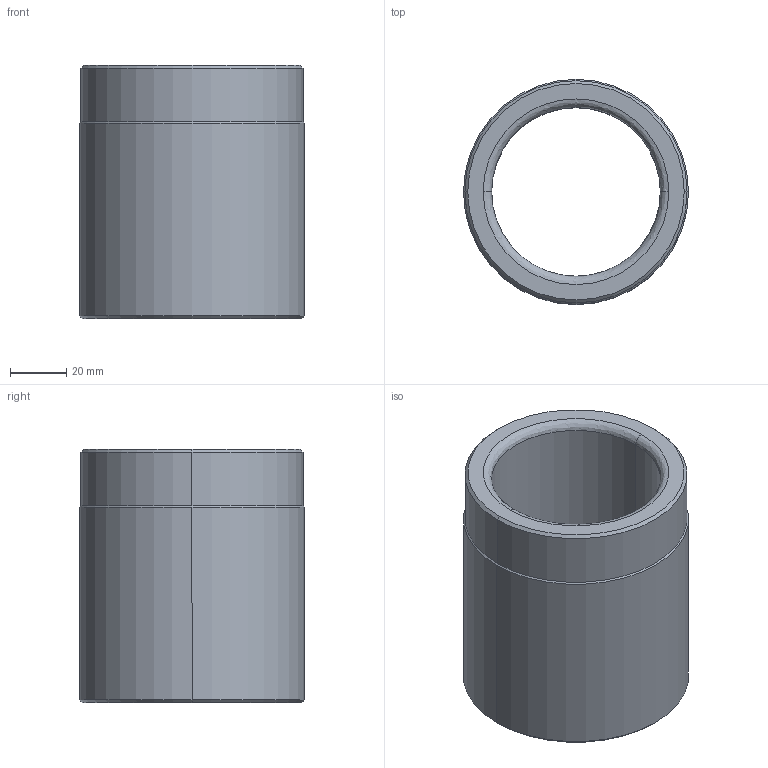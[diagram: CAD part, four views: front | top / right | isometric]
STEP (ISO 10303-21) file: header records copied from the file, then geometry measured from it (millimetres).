
FILE_DESCRIPTION((''),'2;1');
FILE_NAME('','2010-08-30T17:15:52+09:00',('misumi'),(''),'M/STEP i/f 1R2-14','CADmeister v5.1','');
FILE_SCHEMA(('AUTOMOTIVE_DESIGN'));
Length unit declared in the file: millimetre
Products named in the file (1): GBW60
Bounding box: 80 x 80 x 90 mm (x, y, z)
Volume: 192114.1 mm3; surface area: 42933.8 mm2
Topology: 1 solids, 1 shells, 20 faces, 40 edges, 22 vertices
Faces by surface type: cone 8, cylinder 6, revolution 4, plane 2
Entity records: 829 total; most frequent: DIRECTION 112, CARTESIAN_POINT 87, ORIENTED_EDGE 80, COLOUR_RGB 51, AXIS2_PLACEMENT_3D 47, CURVE_STYLE 46, PRESENTATION_STYLE_ASSIGNMENT 45, OVER_RIDING_STYLED_ITEM 44
